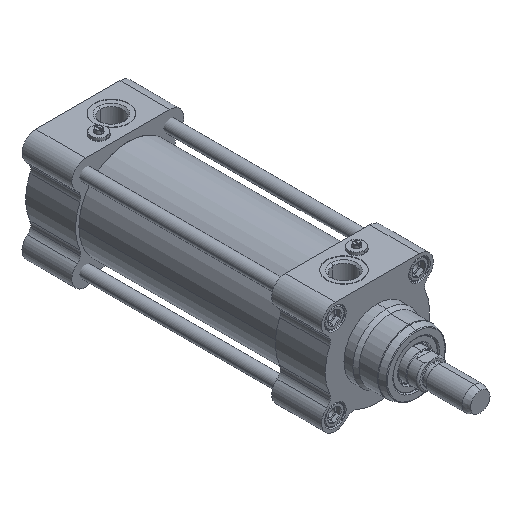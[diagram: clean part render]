
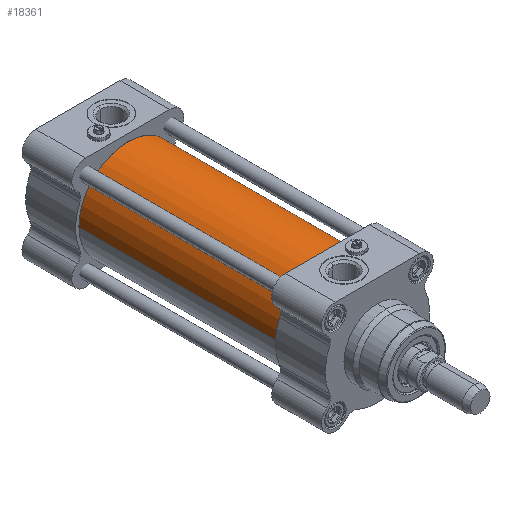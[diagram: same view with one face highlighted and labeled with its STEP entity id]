
A CAD part, isometric view. The second image highlights one B-rep face of the part: STEP entity #18361.
In plain terms, the highlighted cylindrical face has radius 33 mm (diameter 66 mm), a partial arc.
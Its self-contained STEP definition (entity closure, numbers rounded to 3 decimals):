
#2593 = LINE ( 'NONE', #19380, #19865 ) ;
#2671 = CYLINDRICAL_SURFACE ( 'NONE', #8912, 33. ) ;
#3018 = ORIENTED_EDGE ( 'NONE', *, *, #13934, .F. ) ;
#3314 = CARTESIAN_POINT ( 'NONE',  ( 0., 66.8, 0. ) ) ;
#3929 = EDGE_LOOP ( 'NONE', ( #11841, #6789, #12965, #3018 ) ) ;
#4374 = AXIS2_PLACEMENT_3D ( 'NONE', #3314, #4917, #16468 ) ;
#4917 = DIRECTION ( 'NONE',  ( 0., 1., 0. ) ) ;
#5871 = LINE ( 'NONE', #13293, #21876 ) ;
#6314 = CIRCLE ( 'NONE', #4374, 33. ) ;
#6789 = ORIENTED_EDGE ( 'NONE', *, *, #22112, .F. ) ;
#6870 = CIRCLE ( 'NONE', #18883, 33. ) ;
#8218 = VERTEX_POINT ( 'NONE', #11564 ) ;
#8912 = AXIS2_PLACEMENT_3D ( 'NONE', #23123, #15704, #17658 ) ;
#11564 = CARTESIAN_POINT ( 'NONE',  ( 33., 66.8, 0. ) ) ;
#11594 = DIRECTION ( 'NONE',  ( 0., 1., 0. ) ) ;
#11841 = ORIENTED_EDGE ( 'NONE', *, *, #12800, .F. ) ;
#12688 = CARTESIAN_POINT ( 'NONE',  ( -33., 66.8, 0. ) ) ;
#12800 = EDGE_CURVE ( 'NONE', #16810, #17229, #2593, .T. ) ;
#12965 = ORIENTED_EDGE ( 'NONE', *, *, #14092, .T. ) ;
#13124 = VERTEX_POINT ( 'NONE', #20079 ) ;
#13293 = CARTESIAN_POINT ( 'NONE',  ( 33., 0., 0. ) ) ;
#13503 = DIRECTION ( 'NONE',  ( 1., 0., 0. ) ) ;
#13934 = EDGE_CURVE ( 'NONE', #17229, #8218, #6314, .T. ) ;
#14092 = EDGE_CURVE ( 'NONE', #13124, #8218, #5871, .T. ) ;
#15704 = DIRECTION ( 'NONE',  ( 0., 1., 0. ) ) ;
#16468 = DIRECTION ( 'NONE',  ( 1., 0., 0. ) ) ;
#16810 = VERTEX_POINT ( 'NONE', #23664 ) ;
#17229 = VERTEX_POINT ( 'NONE', #12688 ) ;
#17658 = DIRECTION ( 'NONE',  ( 1., 0., 0. ) ) ;
#18361 = ADVANCED_FACE ( 'NONE', ( #19459 ), #2671, .T. ) ;
#18857 = DIRECTION ( 'NONE',  ( 0., -1., 0. ) ) ;
#18883 = AXIS2_PLACEMENT_3D ( 'NONE', #20804, #18857, #13503 ) ;
#19380 = CARTESIAN_POINT ( 'NONE',  ( -33., 0., 0. ) ) ;
#19459 = FACE_OUTER_BOUND ( 'NONE', #3929, .T. ) ;
#19865 = VECTOR ( 'NONE', #20975, 1000. ) ;
#20079 = CARTESIAN_POINT ( 'NONE',  ( 33., -66.8, 0. ) ) ;
#20804 = CARTESIAN_POINT ( 'NONE',  ( 0., -66.8, 0. ) ) ;
#20975 = DIRECTION ( 'NONE',  ( 0., 1., 0. ) ) ;
#21876 = VECTOR ( 'NONE', #11594, 1000. ) ;
#22112 = EDGE_CURVE ( 'NONE', #13124, #16810, #6870, .T. ) ;
#23123 = CARTESIAN_POINT ( 'NONE',  ( 0., 0., 0. ) ) ;
#23664 = CARTESIAN_POINT ( 'NONE',  ( -33., -66.8, 0. ) ) ;
